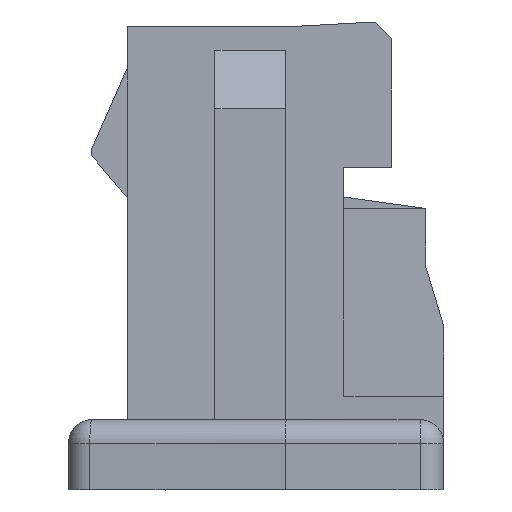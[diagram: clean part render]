
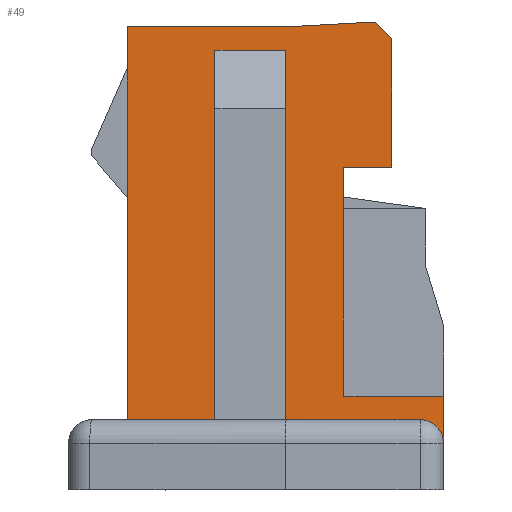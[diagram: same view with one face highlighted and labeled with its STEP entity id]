
A CAD part, front view. The second image highlights one B-rep face of the part: STEP entity #49.
In plain terms, the highlighted planar face has unit normal (0, -1, 0).
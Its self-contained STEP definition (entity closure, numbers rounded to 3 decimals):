
#49 = ADVANCED_FACE ( 'NONE', ( #4469 ), #19909, .F. ) ;
#178 = CARTESIAN_POINT ( 'NONE',  ( -16.778, -11.564, 3.75 ) ) ;
#407 = LINE ( 'NONE', #3979, #993 ) ;
#434 = DIRECTION ( 'NONE',  ( 0., 0., -1. ) ) ;
#913 = VECTOR ( 'NONE', #25193, 1000. ) ;
#993 = VECTOR ( 'NONE', #8194, 1000. ) ;
#1003 = DIRECTION ( 'NONE',  ( -0.998, 0., -0.055 ) ) ;
#1214 = DIRECTION ( 'NONE',  ( 1., 0., 0. ) ) ;
#1470 = EDGE_CURVE ( 'NONE', #11910, #15611, #23173, .T. ) ;
#1499 = EDGE_CURVE ( 'NONE', #7880, #1549, #9400, .T. ) ;
#1549 = VERTEX_POINT ( 'NONE', #19709 ) ;
#1556 = LINE ( 'NONE', #20937, #10624 ) ;
#1807 = DIRECTION ( 'NONE',  ( -1., 0., 0. ) ) ;
#1878 = EDGE_LOOP ( 'NONE', ( #21800, #22392, #19800, #24127, #11905, #17939, #15958, #7471, #8400, #16004, #14877, #9483, #7972, #16915, #2347 ) ) ;
#2153 = VECTOR ( 'NONE', #1003, 1000. ) ;
#2158 = EDGE_CURVE ( 'NONE', #17737, #6549, #1556, .T. ) ;
#2347 = ORIENTED_EDGE ( 'NONE', *, *, #5549, .T. ) ;
#2664 = EDGE_CURVE ( 'NONE', #15611, #17104, #24550, .T. ) ;
#2978 = EDGE_CURVE ( 'NONE', #17104, #16362, #9691, .T. ) ;
#3081 = VECTOR ( 'NONE', #1807, 1000. ) ;
#3370 = CARTESIAN_POINT ( 'NONE',  ( -18.128, -11.564, 0.6 ) ) ;
#3434 = CARTESIAN_POINT ( 'NONE',  ( -17.378, -11.564, 3.75 ) ) ;
#3448 = CARTESIAN_POINT ( 'NONE',  ( -15.868, -11.564, 2.75 ) ) ;
#3561 = CARTESIAN_POINT ( 'NONE',  ( -15.428, -11.564, 0.4 ) ) ;
#3575 = DIRECTION ( 'NONE',  ( -1., 0., 0. ) ) ;
#3782 = VECTOR ( 'NONE', #20389, 1000. ) ;
#3979 = CARTESIAN_POINT ( 'NONE',  ( -18.128, -11.564, 0.6 ) ) ;
#4122 = DIRECTION ( 'NONE',  ( 0., 0., 1. ) ) ;
#4469 = FACE_OUTER_BOUND ( 'NONE', #1878, .T. ) ;
#4648 = CARTESIAN_POINT ( 'NONE',  ( -16.278, -11.564, 0.8 ) ) ;
#5050 = CARTESIAN_POINT ( 'NONE',  ( -16.018, -11.564, 3.992 ) ) ;
#5096 = DIRECTION ( 'NONE',  ( 0., 0., 1. ) ) ;
#5121 = VERTEX_POINT ( 'NONE', #5134 ) ;
#5134 = CARTESIAN_POINT ( 'NONE',  ( -15.428, -11.564, 0.8 ) ) ;
#5317 = DIRECTION ( 'NONE',  ( 0., 0., -1. ) ) ;
#5549 = EDGE_CURVE ( 'NONE', #5121, #19114, #22713, .T. ) ;
#5692 = DIRECTION ( 'NONE',  ( -0.726, 0., 0.687 ) ) ;
#5714 = VERTEX_POINT ( 'NONE', #19378 ) ;
#6549 = VERTEX_POINT ( 'NONE', #15546 ) ;
#6641 = VECTOR ( 'NONE', #3575, 1000. ) ;
#6866 = VERTEX_POINT ( 'NONE', #17797 ) ;
#7464 = CARTESIAN_POINT ( 'NONE',  ( -18.128, -11.564, 3.95 ) ) ;
#7471 = ORIENTED_EDGE ( 'NONE', *, *, #24937, .T. ) ;
#7880 = VERTEX_POINT ( 'NONE', #3434 ) ;
#7972 = ORIENTED_EDGE ( 'NONE', *, *, #2978, .T. ) ;
#8060 = LINE ( 'NONE', #13427, #3081 ) ;
#8194 = DIRECTION ( 'NONE',  ( 1., 0., 0. ) ) ;
#8257 = VERTEX_POINT ( 'NONE', #3370 ) ;
#8400 = ORIENTED_EDGE ( 'NONE', *, *, #1499, .F. ) ;
#8478 = AXIS2_PLACEMENT_3D ( 'NONE', #9752, #23512, #4122 ) ;
#8644 = EDGE_CURVE ( 'NONE', #11910, #7880, #8060, .T. ) ;
#9400 = LINE ( 'NONE', #11187, #16007 ) ;
#9483 = ORIENTED_EDGE ( 'NONE', *, *, #2664, .T. ) ;
#9691 = CIRCLE ( 'NONE', #8478, 0.2 ) ;
#9713 = VECTOR ( 'NONE', #5692, 1000. ) ;
#9752 = CARTESIAN_POINT ( 'NONE',  ( -15.628, -11.564, 0.4 ) ) ;
#10213 = CARTESIAN_POINT ( 'NONE',  ( -29.428, -11.564, 3.85 ) ) ;
#10315 = VECTOR ( 'NONE', #20920, 1000. ) ;
#10561 = CARTESIAN_POINT ( 'NONE',  ( -18.128, -11.564, 3.95 ) ) ;
#10624 = VECTOR ( 'NONE', #17228, 1000. ) ;
#11187 = CARTESIAN_POINT ( 'NONE',  ( -17.378, -11.564, 3.75 ) ) ;
#11229 = LINE ( 'NONE', #3448, #10315 ) ;
#11439 = CARTESIAN_POINT ( 'NONE',  ( -15.868, -11.564, 3.85 ) ) ;
#11690 = EDGE_CURVE ( 'NONE', #17737, #8257, #13336, .T. ) ;
#11709 = VECTOR ( 'NONE', #5096, 1000. ) ;
#11905 = ORIENTED_EDGE ( 'NONE', *, *, #12301, .T. ) ;
#11910 = VERTEX_POINT ( 'NONE', #178 ) ;
#12071 = EDGE_CURVE ( 'NONE', #5714, #23627, #11229, .T. ) ;
#12279 = EDGE_CURVE ( 'NONE', #23627, #19114, #20018, .T. ) ;
#12301 = EDGE_CURVE ( 'NONE', #24469, #6549, #14899, .T. ) ;
#13336 = LINE ( 'NONE', #7464, #913 ) ;
#13427 = CARTESIAN_POINT ( 'NONE',  ( -16.778, -11.564, 3.75 ) ) ;
#14877 = ORIENTED_EDGE ( 'NONE', *, *, #1470, .T. ) ;
#14899 = LINE ( 'NONE', #18470, #2153 ) ;
#15546 = CARTESIAN_POINT ( 'NONE',  ( -16.778, -11.564, 3.95 ) ) ;
#15611 = VERTEX_POINT ( 'NONE', #22497 ) ;
#15958 = ORIENTED_EDGE ( 'NONE', *, *, #11690, .T. ) ;
#16004 = ORIENTED_EDGE ( 'NONE', *, *, #8644, .F. ) ;
#16007 = VECTOR ( 'NONE', #17168, 1000. ) ;
#16324 = CARTESIAN_POINT ( 'NONE',  ( -15.428, -11.564, 0.4 ) ) ;
#16362 = VERTEX_POINT ( 'NONE', #16324 ) ;
#16652 = CARTESIAN_POINT ( 'NONE',  ( -16.778, -11.564, 0.6 ) ) ;
#16915 = ORIENTED_EDGE ( 'NONE', *, *, #22115, .T. ) ;
#17068 = CARTESIAN_POINT ( 'NONE',  ( -16.278, -11.564, 2.75 ) ) ;
#17104 = VERTEX_POINT ( 'NONE', #24506 ) ;
#17168 = DIRECTION ( 'NONE',  ( 0., 0., -1. ) ) ;
#17228 = DIRECTION ( 'NONE',  ( 1., 0., 0. ) ) ;
#17737 = VERTEX_POINT ( 'NONE', #10561 ) ;
#17797 = CARTESIAN_POINT ( 'NONE',  ( -15.868, -11.564, 3.85 ) ) ;
#17939 = ORIENTED_EDGE ( 'NONE', *, *, #2158, .F. ) ;
#17979 = DIRECTION ( 'NONE',  ( 0., 1., 0. ) ) ;
#18037 = VECTOR ( 'NONE', #5317, 1000. ) ;
#18157 = CARTESIAN_POINT ( 'NONE',  ( -15.868, -11.564, 3.85 ) ) ;
#18457 = AXIS2_PLACEMENT_3D ( 'NONE', #10213, #17979, #20030 ) ;
#18470 = CARTESIAN_POINT ( 'NONE',  ( -16.018, -11.564, 3.992 ) ) ;
#19114 = VERTEX_POINT ( 'NONE', #4648 ) ;
#19134 = CARTESIAN_POINT ( 'NONE',  ( -15.428, -11.564, 0.8 ) ) ;
#19203 = CARTESIAN_POINT ( 'NONE',  ( -16.778, -11.564, 3.75 ) ) ;
#19378 = CARTESIAN_POINT ( 'NONE',  ( -15.868, -11.564, 2.75 ) ) ;
#19546 = VECTOR ( 'NONE', #1214, 1000. ) ;
#19709 = CARTESIAN_POINT ( 'NONE',  ( -17.378, -11.564, 0.6 ) ) ;
#19800 = ORIENTED_EDGE ( 'NONE', *, *, #24634, .F. ) ;
#19909 = PLANE ( 'NONE',  #18457 ) ;
#20018 = LINE ( 'NONE', #17068, #3782 ) ;
#20030 = DIRECTION ( 'NONE',  ( 1., 0., 0. ) ) ;
#20389 = DIRECTION ( 'NONE',  ( 0., 0., -1. ) ) ;
#20785 = LINE ( 'NONE', #3561, #11709 ) ;
#20920 = DIRECTION ( 'NONE',  ( -1., 0., 0. ) ) ;
#20937 = CARTESIAN_POINT ( 'NONE',  ( -18.128, -11.564, 3.95 ) ) ;
#21800 = ORIENTED_EDGE ( 'NONE', *, *, #12279, .F. ) ;
#22115 = EDGE_CURVE ( 'NONE', #16362, #5121, #20785, .T. ) ;
#22392 = ORIENTED_EDGE ( 'NONE', *, *, #12071, .F. ) ;
#22497 = CARTESIAN_POINT ( 'NONE',  ( -16.778, -11.564, 0.6 ) ) ;
#22713 = LINE ( 'NONE', #19134, #6641 ) ;
#22795 = LINE ( 'NONE', #11439, #9713 ) ;
#23154 = CARTESIAN_POINT ( 'NONE',  ( -16.278, -11.564, 2.75 ) ) ;
#23173 = LINE ( 'NONE', #19203, #18037 ) ;
#23324 = EDGE_CURVE ( 'NONE', #6866, #24469, #22795, .T. ) ;
#23512 = DIRECTION ( 'NONE',  ( 0., 1., 0. ) ) ;
#23627 = VERTEX_POINT ( 'NONE', #23154 ) ;
#23657 = LINE ( 'NONE', #18157, #23800 ) ;
#23800 = VECTOR ( 'NONE', #434, 1000. ) ;
#24127 = ORIENTED_EDGE ( 'NONE', *, *, #23324, .T. ) ;
#24469 = VERTEX_POINT ( 'NONE', #5050 ) ;
#24506 = CARTESIAN_POINT ( 'NONE',  ( -15.628, -11.564, 0.6 ) ) ;
#24550 = LINE ( 'NONE', #16652, #19546 ) ;
#24634 = EDGE_CURVE ( 'NONE', #6866, #5714, #23657, .T. ) ;
#24937 = EDGE_CURVE ( 'NONE', #8257, #1549, #407, .T. ) ;
#25193 = DIRECTION ( 'NONE',  ( 0., 0., -1. ) ) ;
